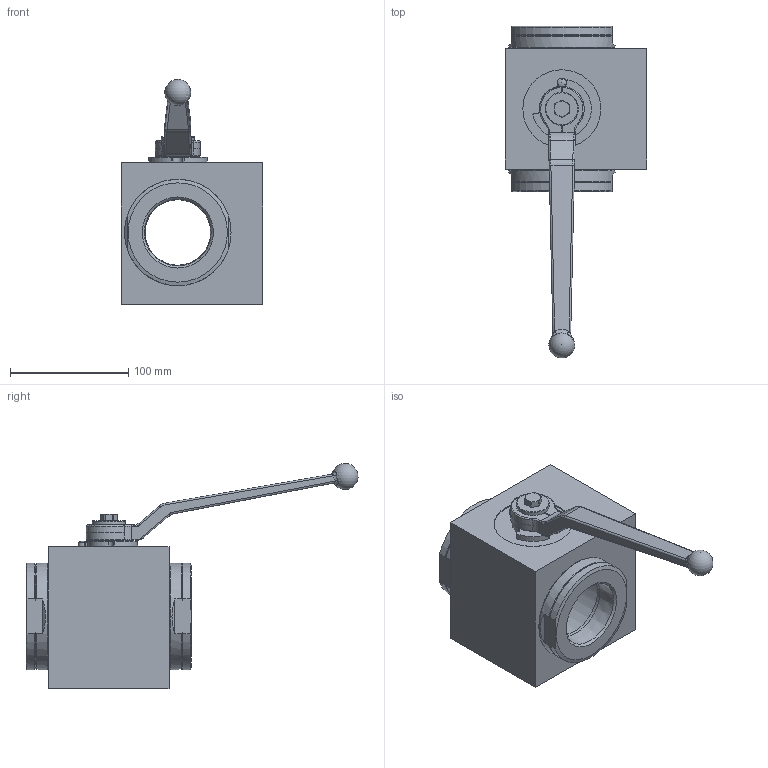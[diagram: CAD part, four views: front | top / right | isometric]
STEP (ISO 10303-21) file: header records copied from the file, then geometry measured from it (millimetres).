
FILE_DESCRIPTION( ( 'Unknown' ), '1' );
FILE_NAME( 'H:/PISTER/3D-MODELLE/BK3-Edelstahl stp/BK3-Edelst DN50 2 NPT.stp', 'Unknown', ( 'Unknown' ), ( 'Unknown' ), 'PSStep 14.0', 'Unknown', ' ' );
FILE_SCHEMA( ( 'AUTOMOTIVE_DESIGN { 1 0 10303 214 1 1 1 1 }' ) );
Length unit declared in the file: millimetre
Products named in the file (10): Assem1; 56-032-171-oa2; 09-17-002; 58-1473-020-oa3; 58-0440-008; 06-050-003-oa6; 04-050-076-oa7; 56-032-143-oa12; Griff_SW17_; 01-050-533-oa13
Assembly tree (9 placements, depth 2):
  Assem1
    56-032-171-oa2
    09-17-002
    58-1473-020-oa3
    58-0440-008
    06-050-003-oa6
    04-050-076-oa7
    56-032-143-oa12
    Griff_SW17_
    01-050-533-oa13
Bounding box: 120 x 280.92 x 190.5 mm (x, y, z)
Volume: 1011012.5 mm3; surface area: 156403.6 mm2
Topology: 9 solids, 9 shells, 285 faces, 739 edges, 472 vertices
Faces by surface type: plane 104, cylinder 94, cone 43, torus 23, bspline 18, sphere 3
Full cylindrical faces by diameter (mm): 6.647 x1, 7.98 x1, 8 x1, 9.2 x1, 24 x2, 28 x1, 32 x1, 36 x1, 55.451 x3, 66 x1, 80.2 x2, 85 x3, 88 x3, 90 x2
Entity records: 12470 total; most frequent: CARTESIAN_POINT 3522, DIRECTION 1378, ORIENTED_EDGE 1292, EDGE_CURVE 646, AXIS2_PLACEMENT_3D 560, VERTEX_POINT 442, EDGE_LOOP 362, FACE_OUTER_BOUND 315
